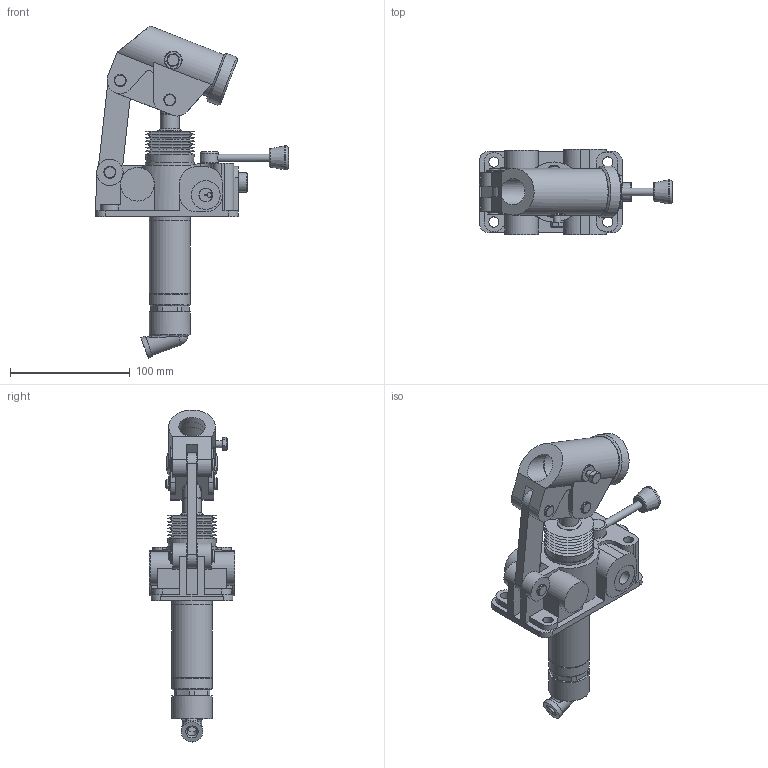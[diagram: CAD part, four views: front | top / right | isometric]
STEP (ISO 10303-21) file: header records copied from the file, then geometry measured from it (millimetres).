
FILE_DESCRIPTION(/* description */ ('Unknown'),/* implementation_level */ '2;1');
FILE_NAME(/* name */ 'HPTDSE-S',/* time_stamp */ '2024-11-28T13:55:50+01:00',/* author */ ('Unknown'),/* organization */ ('Unknown'),/* preprocessor_version */ 'ST-DEVELOPER v19.4',/* originating_system */ 'Solid Edge',/* authorisation */ 'Unknown');
FILE_SCHEMA (('AUTOMOTIVE_DESIGN {1 0 10303 214 3 1 1}'));
Length unit declared in the file: millimetre
Products named in the file (1): HPTDSE-S
Bounding box: 161 x 71 x 276.94 mm (x, y, z)
Volume: 493019.1 mm3; surface area: 131028.9 mm2
Topology: 9 solids, 9 shells, 2198 faces, 6053 edges, 3914 vertices
Faces by surface type: plane 1815, cylinder 262, cone 68, torus 35, bspline 15, sphere 3
Full cylindrical faces by diameter (mm): 4 x2, 5 x5, 5.1 x1, 5.994 x5, 6.2 x1, 7.792 x6, 7.992 x2, 8 x5, 8.092 x4, 8.1 x1, 8.376 x3, 8.5 x4, 9.99 x3, 10 x1, 11 x4, 11.445 x4, 15 x1, 15.3 x1, 15.8 x1, 16 x4, 17 x2, 18 x1, 20 x4, 21.978 x1, 22 x2, 23 x2, 24 x2, 25 x3, 25.3 x1, 25.376 x1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
Entity records: 84026 total; most frequent: CARTESIAN_POINT 13731, ORIENTED_EDGE 11546, DIRECTION 10957, EDGE_CURVE 5773, LINE 4759, VECTOR 4759, VERTEX_POINT 3824, AXIS2_PLACEMENT_3D 3099
